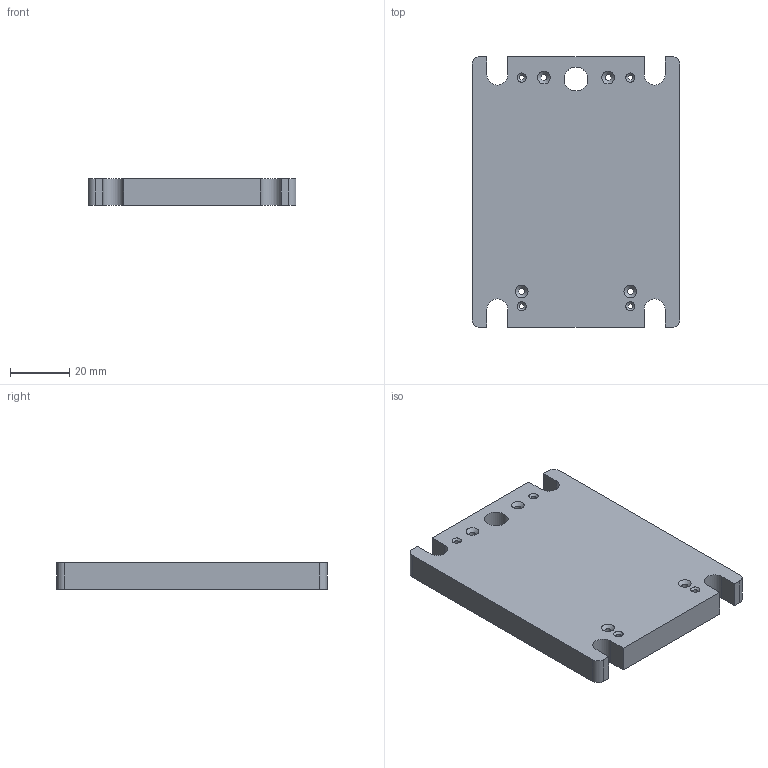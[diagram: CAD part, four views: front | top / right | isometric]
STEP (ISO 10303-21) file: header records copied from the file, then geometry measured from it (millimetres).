
FILE_DESCRIPTION(('FreeCAD Model'),'2;1');
FILE_NAME('Open CASCADE Shape Model','2025-07-11T16:44:16',(''),(''), 'Open CASCADE STEP processor 7.6','FreeCAD','Unknown');
FILE_SCHEMA(('CONFIG_CONTROL_DESIGN','SHAPE_APPEARANCE_LAYER_MIM'));
Length unit declared in the file: millimetre
Products named in the file (1): SmallCCDBoxTop
Bounding box: 70 x 91 x 9 mm (x, y, z)
Volume: 32275.8 mm3; surface area: 17838 mm2
Topology: 1 solids, 1 shells, 52 faces, 139 edges, 90 vertices
Faces by surface type: plane 23, cylinder 21, cone 8
Full cylindrical faces by diameter (mm): 1.7 x4, 2.1 x4, 8 x1
Entity records: 1717 total; most frequent: DIRECTION 295, CARTESIAN_POINT 282, ORIENTED_EDGE 278, EDGE_CURVE 139, AXIS2_PLACEMENT_3D 103, VERTEX_POINT 90, LINE 89, VECTOR 89
